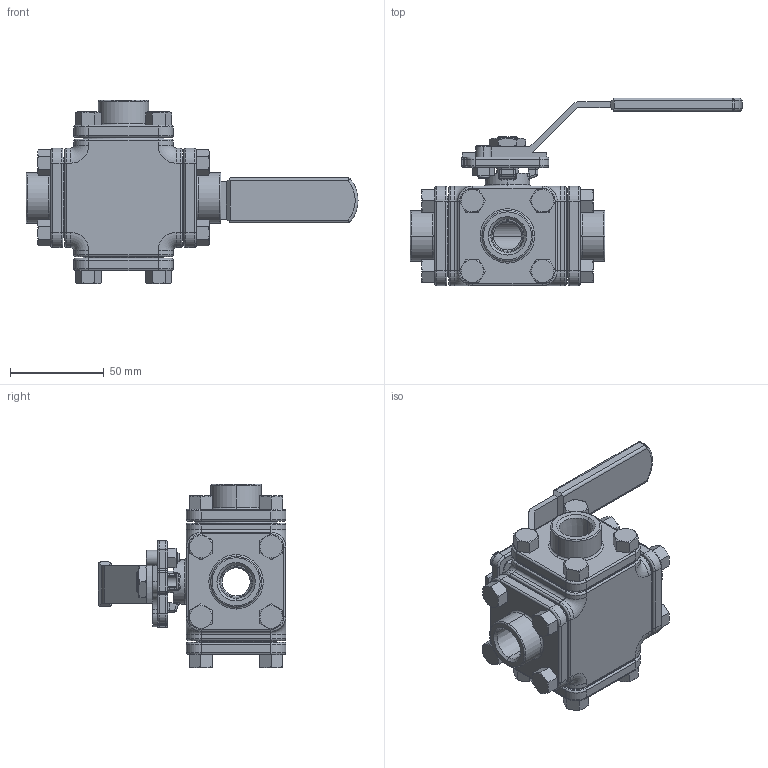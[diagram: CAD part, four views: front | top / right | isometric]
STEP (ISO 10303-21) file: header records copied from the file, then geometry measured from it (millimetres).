
FILE_DESCRIPTION (( 'STEP AP214' ), '1' );
FILE_NAME ('501T-0.5¦T.STEP', '2013-11-13T07:30:06', ( 'zipson' ), ( 'zipson' ), 'SwSTEP 2.0', 'SolidWorks 2008', '' );
FILE_SCHEMA (( 'AUTOMOTIVE_DESIGN' ));
Length unit declared in the file: millimetre
Products named in the file (1): 501T-0.5吋
Bounding box: 176.95 x 100 x 97.7 mm (x, y, z)
Volume: 314637.8 mm3; surface area: 64615.6 mm2
Topology: 1 solids, 1 shells, 777 faces, 1962 edges, 1186 vertices
Faces by surface type: plane 294, cylinder 230, cone 119, torus 102, sphere 20, bspline 12
Entity records: 24649 total; most frequent: CARTESIAN_POINT 6230, ORIENTED_EDGE 3900, DIRECTION 3894, EDGE_CURVE 1950, AXIS2_PLACEMENT_3D 1514, VERTEX_POINT 1186, VECTOR 866, LINE 866
